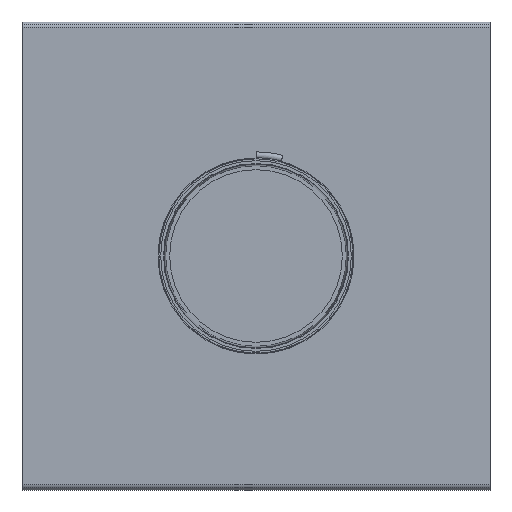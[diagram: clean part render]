
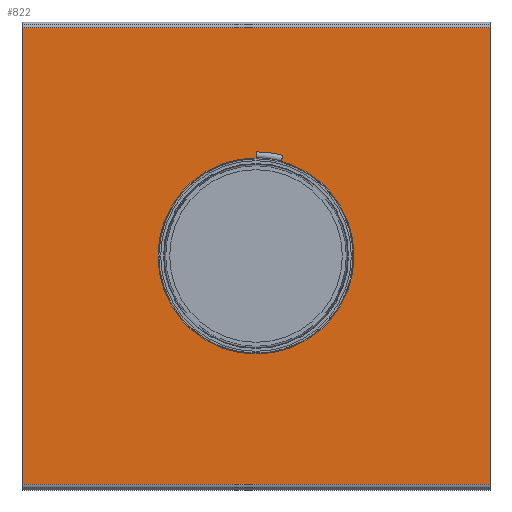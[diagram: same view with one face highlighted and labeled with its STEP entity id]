
A CAD part, front view. The second image highlights one B-rep face of the part: STEP entity #822.
In plain terms, the highlighted planar face has unit normal (0, -1, 0).
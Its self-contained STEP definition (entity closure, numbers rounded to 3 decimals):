
#46=FACE_BOUND('',#215,.T.);
#78=PLANE('',#932);
#130=FACE_OUTER_BOUND('',#214,.T.);
#214=EDGE_LOOP('',(#691,#692,#693,#694));
#215=EDGE_LOOP('',(#695));
#268=LINE('',#1389,#312);
#273=LINE('',#1401,#317);
#274=LINE('',#1405,#318);
#275=LINE('',#1406,#319);
#312=VECTOR('',#1146,10.);
#317=VECTOR('',#1155,10.);
#318=VECTOR('',#1160,10.);
#319=VECTOR('',#1161,10.);
#375=CIRCLE('',#933,167.5);
#436=VERTEX_POINT('',#1386);
#437=VERTEX_POINT('',#1388);
#442=VERTEX_POINT('',#1400);
#443=VERTEX_POINT('',#1404);
#444=VERTEX_POINT('',#1407);
#524=EDGE_CURVE('',#437,#436,#268,.T.);
#530=EDGE_CURVE('',#437,#442,#273,.T.);
#532=EDGE_CURVE('',#443,#436,#274,.T.);
#533=EDGE_CURVE('',#443,#442,#275,.T.);
#534=EDGE_CURVE('',#444,#444,#375,.T.);
#691=ORIENTED_EDGE('',*,*,#530,.F.);
#692=ORIENTED_EDGE('',*,*,#524,.T.);
#693=ORIENTED_EDGE('',*,*,#532,.F.);
#694=ORIENTED_EDGE('',*,*,#533,.T.);
#695=ORIENTED_EDGE('',*,*,#534,.T.);
#822=ADVANCED_FACE('',(#130,#46),#78,.T.);
#932=AXIS2_PLACEMENT_3D('',#1403,#1158,#1159);
#933=AXIS2_PLACEMENT_3D('',#1408,#1162,#1163);
#1146=DIRECTION('',(0.,0.,1.));
#1155=DIRECTION('',(-1.,0.,0.));
#1158=DIRECTION('center_axis',(0.,-1.,0.));
#1159=DIRECTION('ref_axis',(0.,0.,-1.));
#1160=DIRECTION('',(1.,0.,0.));
#1161=DIRECTION('',(0.,0.,-1.));
#1162=DIRECTION('center_axis',(0.,1.,0.));
#1163=DIRECTION('ref_axis',(0.,0.,1.));
#1386=CARTESIAN_POINT('',(400.,-400.,390.));
#1388=CARTESIAN_POINT('',(400.,-400.,-390.));
#1389=CARTESIAN_POINT('',(400.,-400.,400.));
#1400=CARTESIAN_POINT('',(-400.,-400.,-390.));
#1401=CARTESIAN_POINT('',(200.,-400.,-390.));
#1403=CARTESIAN_POINT('Origin',(0.,-400.,0.));
#1404=CARTESIAN_POINT('',(-400.,-400.,390.));
#1405=CARTESIAN_POINT('',(-200.,-400.,390.));
#1406=CARTESIAN_POINT('',(-400.,-400.,-400.));
#1407=CARTESIAN_POINT('',(0.,-400.,167.5));
#1408=CARTESIAN_POINT('Origin',(0.,-400.,0.));
